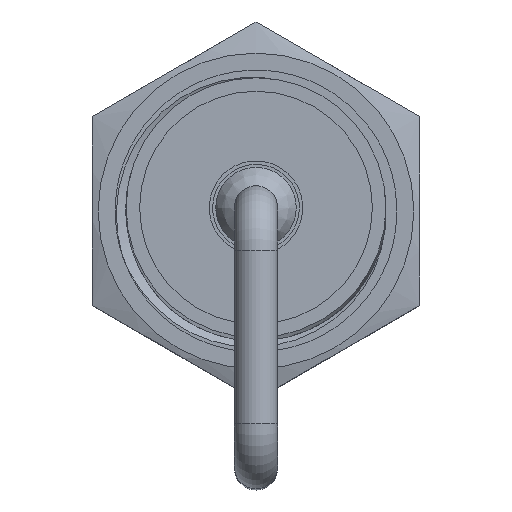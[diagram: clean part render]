
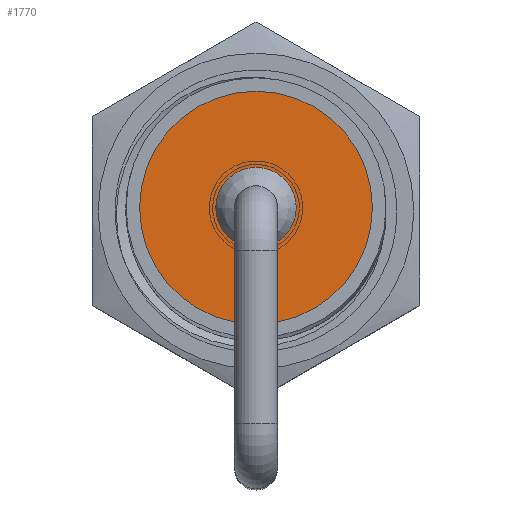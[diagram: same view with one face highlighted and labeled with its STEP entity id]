
A CAD part, top view. The second image highlights one B-rep face of the part: STEP entity #1770.
In plain terms, the highlighted planar face has unit normal (0, 0, 1) as drawn and (0, 0, -1) by its records, which use the part's own axes.
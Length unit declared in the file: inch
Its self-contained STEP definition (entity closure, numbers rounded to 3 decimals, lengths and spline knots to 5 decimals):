
#134=FACE_BOUND('',#404,.T.);
#171=PLANE('',#2181);
#278=FACE_OUTER_BOUND('',#403,.T.);
#403=EDGE_LOOP('',(#1528));
#404=EDGE_LOOP('',(#1529));
#477=CIRCLE('',#2175,0.0625);
#480=CIRCLE('',#2179,0.336);
#882=VERTEX_POINT('',#8305);
#885=VERTEX_POINT('',#8313);
#1100=EDGE_CURVE('',#882,#882,#477,.T.);
#1105=EDGE_CURVE('',#885,#885,#480,.T.);
#1528=ORIENTED_EDGE('',*,*,#1105,.F.);
#1529=ORIENTED_EDGE('',*,*,#1100,.T.);
#1770=ADVANCED_FACE('',(#278,#134),#171,.F.);
#2175=AXIS2_PLACEMENT_3D('',#8306,#2534,#2535);
#2179=AXIS2_PLACEMENT_3D('',#8315,#2544,#2545);
#2181=AXIS2_PLACEMENT_3D('',#8317,#2548,#2549);
#2534=DIRECTION('center_axis',(0.,0.,1.));
#2535=DIRECTION('ref_axis',(1.,0.,0.));
#2544=DIRECTION('center_axis',(0.,0.,1.));
#2545=DIRECTION('ref_axis',(1.,0.,0.));
#2548=DIRECTION('center_axis',(0.,0.,1.));
#2549=DIRECTION('ref_axis',(1.,0.,0.));
#8305=CARTESIAN_POINT('',(-0.0625,0.,0.));
#8306=CARTESIAN_POINT('Origin',(0.,0.,0.));
#8313=CARTESIAN_POINT('',(-0.336,0.,0.));
#8315=CARTESIAN_POINT('Origin',(0.,0.,0.));
#8317=CARTESIAN_POINT('Origin',(0.,0.,0.));
